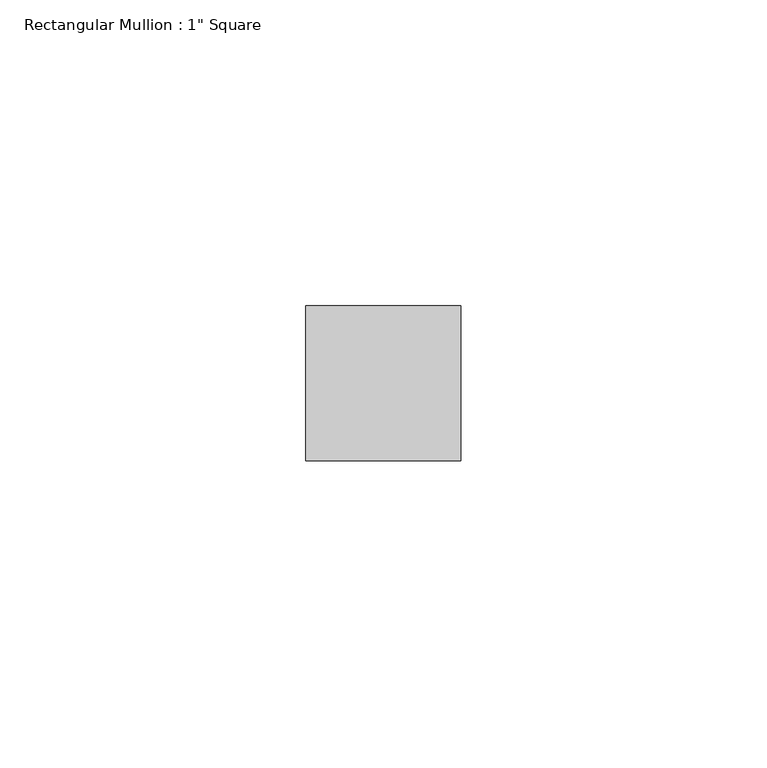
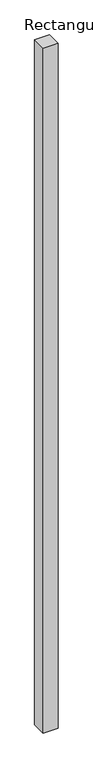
"""IFC4 building model written with IfcOpenShell, lengths in millimetres: member geometry."""

from ifc_helpers import new_model, si_unit, frame, origin, place, context, project, spatial, polyline, outline, extrude, source, transform, mapped, element, save


def member_0d8d9af5(model_context):
    return source(origin(), model_context, "Body", "SweptSolid", [
        extrude(outline(polyline([(0.0, 12.7), (0.0, -12.7), (-25.4, -12.7), (-25.4, 12.7), (0.0, 12.7)])), frame((0.0, 0.0, -1241.425), z_axis=(0.0, 0.0, 1.0), x_axis=(1.0, 0.0, 0.0)), (0.0, 0.0, 1.0), 1241.425),
    ])


if __name__ == "__main__":
    model = new_model("IFC4")
    model_context = context("Model", 3, world=origin())
    ifc_project = project(units=[si_unit("LENGTHUNIT", "METRE", prefix="MILLI")], contexts=[model_context])
    site = spatial("IfcSite", under=ifc_project)
    building = spatial("IfcBuilding", under=site)
    placement = place(None, origin())
    member_shape = member_0d8d9af5(model_context)
    element("IfcMember", 1, ObjectType="Rectangular Mullion : 1\" Square", at=placement, inside=building, context=model_context, shape_type="MappedRepresentation", body=[
        mapped(member_shape, transform((0.0, 0.0, 0.0), x_axis=(1.0, 0.0, 0.0), y_axis=(0.0, 1.0, 0.0), z_axis=(0.0, 0.0, 1.0))),
    ])
    save(model, "model.ifc")
